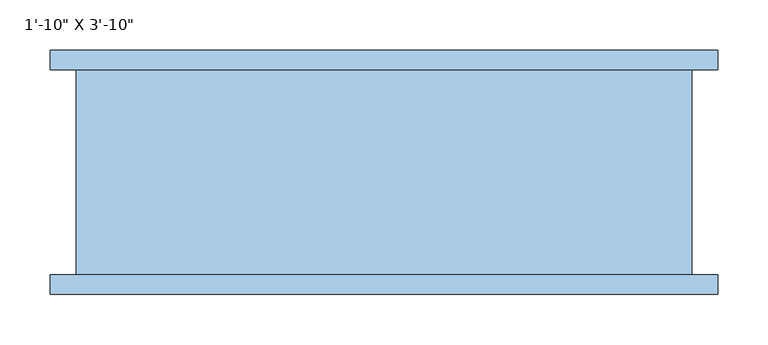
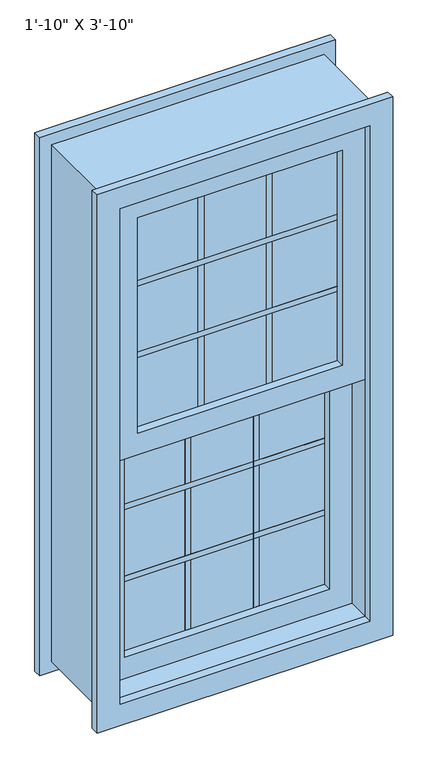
"""IFC4 building model written with IfcOpenShell, lengths in millimetres: window geometry."""

from ifc_helpers import new_model, si_unit, frame, origin, place, context, project, spatial, polyline, outline, extrude, source, transform, mapped, element, save


def window_19f0d271(model_context):
    return source(origin(), model_context, "Body", "SweptSolid", [
        extrude(outline(polyline([(1981.2, 279.4), (1981.2, -279.4), (1371.6, -279.4), (1371.6, 279.4), (1981.2, 279.4)]), holes=[polyline([(1930.4, 228.6), (1422.4, 228.6), (1422.4, -228.6), (1930.4, -228.6), (1930.4, 228.6)])]), frame((0.0, -101.6, 0.0), z_axis=(0.0, 1.0, 0.0), x_axis=(0.0, 0.0, 1.0)), (0.0, 0.0, 1.0), 50.8),
        extrude(outline(polyline([(-228.6, -19.05), (228.6, -19.05), (228.6, -31.75), (-228.6, -31.75), (-228.6, -19.05)])), frame((0.0, 0.0, 1026.5833333), z_axis=(0.0, 0.0, 1.0), x_axis=(1.0, 0.0, 0.0)), (0.0, 0.0, 1.0), 12.7),
        extrude(outline(polyline([(-228.6, -19.05), (228.6, -19.05), (228.6, -31.75), (-228.6, -31.75), (-228.6, -19.05)])), frame((0.0, 0.0, 1195.9166667), z_axis=(0.0, 0.0, 1.0), x_axis=(1.0, 0.0, 0.0)), (0.0, 0.0, 1.0), 12.7),
        extrude(outline(polyline([(-228.6, -69.85), (228.6, -69.85), (228.6, -82.55), (-228.6, -82.55), (-228.6, -69.85)])), frame((0.0, 0.0, 1754.7166667), z_axis=(0.0, 0.0, 1.0), x_axis=(1.0, 0.0, 0.0)), (0.0, 0.0, 1.0), 12.7),
        extrude(outline(polyline([(-228.6, -69.85), (228.6, -69.85), (228.6, -82.55), (-228.6, -82.55), (-228.6, -69.85)])), frame((0.0, 0.0, 1585.3833333), z_axis=(0.0, 0.0, 1.0), x_axis=(1.0, 0.0, 0.0)), (0.0, 0.0, 1.0), 12.7),
        extrude(outline(polyline([(-82.55, -69.85), (-69.85, -69.85), (-69.85, -82.55), (-82.55, -82.55), (-82.55, -69.85)])), frame((0.0, 0.0, 1422.4), z_axis=(0.0, 0.0, 1.0), x_axis=(1.0, 0.0, 0.0)), (0.0, 0.0, 1.0), 508.0),
        extrude(outline(polyline([(69.85, -69.85), (82.55, -69.85), (82.55, -82.55), (69.85, -82.55), (69.85, -69.85)])), frame((0.0, 0.0, 1422.4), z_axis=(0.0, 0.0, 1.0), x_axis=(1.0, 0.0, 0.0)), (0.0, 0.0, 1.0), 508.0),
        extrude(outline(polyline([(-228.6, -69.85), (228.6, -69.85), (228.6, -82.55), (-228.6, -82.55), (-228.6, -69.85)])), frame((0.0, 0.0, 1422.4), z_axis=(0.0, 0.0, 1.0), x_axis=(1.0, 0.0, 0.0)), (0.0, 0.0, 1.0), 508.0),
        extrude(outline(polyline([(69.85, -19.05), (82.55, -19.05), (82.55, -31.75), (69.85, -31.75), (69.85, -19.05)])), frame((0.0, 0.0, 863.6), z_axis=(0.0, 0.0, 1.0), x_axis=(1.0, 0.0, 0.0)), (0.0, 0.0, 1.0), 508.0),
        extrude(outline(polyline([(-82.55, -19.05), (-69.85, -19.05), (-69.85, -31.75), (-82.55, -31.75), (-82.55, -19.05)])), frame((0.0, 0.0, 863.6), z_axis=(0.0, 0.0, 1.0), x_axis=(1.0, 0.0, 0.0)), (0.0, 0.0, 1.0), 508.0),
        extrude(outline(polyline([(-228.6, -19.05), (228.6, -19.05), (228.6, -31.75), (-228.6, -31.75), (-228.6, -19.05)])), frame((0.0, 0.0, 863.6), z_axis=(0.0, 0.0, 1.0), x_axis=(1.0, 0.0, 0.0)), (0.0, 0.0, 1.0), 508.0),
        extrude(outline(polyline([(1422.4, -279.4), (812.8, -279.4), (812.8, 279.4), (1422.4, 279.4), (1422.4, -279.4)]), holes=[polyline([(1371.6, 228.6), (863.6, 228.6), (863.6, -228.6), (1371.6, -228.6), (1371.6, 228.6)])]), frame((0.0, -50.8, 0.0), z_axis=(0.0, 1.0, 0.0), x_axis=(0.0, 0.0, 1.0)), (0.0, 0.0, 1.0), 50.8),
        extrude(outline(polyline([(2032.0, -330.2), (762.0, -330.2), (762.0, 330.2), (2032.0, 330.2), (2032.0, -330.2)]), holes=[polyline([(1981.2, -279.4), (1981.2, 279.4), (812.8, 279.4), (812.8, -279.4), (1981.2, -279.4)])]), frame((0.0, 101.6, 0.0), z_axis=(0.0, 1.0, 0.0), x_axis=(0.0, 0.0, 1.0)), (0.0, 0.0, 1.0), 19.05),
        extrude(outline(polyline([(2032.0, -330.2), (762.0, -330.2), (762.0, 330.2), (2032.0, 330.2), (2032.0, -330.2)]), holes=[polyline([(1981.2, -279.4), (1981.2, 279.4), (812.8, 279.4), (812.8, -279.4), (1981.2, -279.4)])]), frame((0.0, -120.65, 0.0), z_axis=(0.0, 1.0, 0.0), x_axis=(0.0, 0.0, 1.0)), (0.0, 0.0, 1.0), 19.05),
        extrude(outline(polyline([(2006.6, 304.8), (2006.6, -304.8), (787.4, -304.8), (787.4, 304.8), (2006.6, 304.8)]), holes=[polyline([(1981.2, -279.4), (1981.2, 279.4), (812.8, 279.4), (812.8, -279.4), (1981.2, -279.4)])]), frame((0.0, -101.6, 0.0), z_axis=(0.0, 1.0, 0.0), x_axis=(0.0, 0.0, 1.0)), (0.0, 0.0, 1.0), 203.2),
    ])


if __name__ == "__main__":
    model = new_model("IFC4")
    model_context = context("Model", 3, world=origin())
    ifc_project = project(units=[si_unit("LENGTHUNIT", "METRE", prefix="MILLI")], contexts=[model_context])
    site = spatial("IfcSite", under=ifc_project)
    building = spatial("IfcBuilding", under=site)
    placement = place(None, origin())
    window_shape = window_19f0d271(model_context)
    element("IfcWindow", 1, ObjectType="C_Window Guilotine : 1'-10\" X 3'-10\"", at=placement, inside=building, context=model_context, shape_type="MappedRepresentation", body=[
        mapped(window_shape, transform((0.0, 0.0, 0.0), x_axis=(1.0, 0.0, 0.0), y_axis=(0.0, 1.0, 0.0), z_axis=(0.0, 0.0, 1.0))),
    ])
    save(model, "model.ifc")
